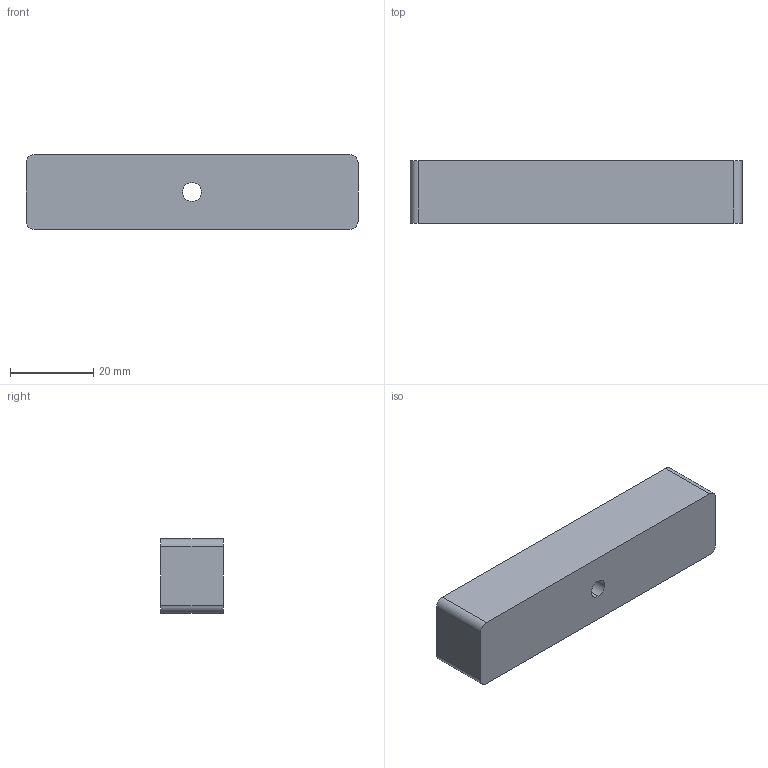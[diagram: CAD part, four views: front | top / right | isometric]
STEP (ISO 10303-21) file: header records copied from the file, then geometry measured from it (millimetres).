
FILE_DESCRIPTION (( 'STEP AP214' ), '1' );
FILE_NAME ('DMi8 stage spacer 15mm front 1.0.STEP', '2017-07-17T21:06:56', ( '' ), ( '' ), 'SwSTEP 2.0', 'SolidWorks 2016', '' );
FILE_SCHEMA (( 'AUTOMOTIVE_DESIGN' ));
Length unit declared in the file: millimetre
Products named in the file (1): DMi8 stage spacer 15mm front 1.0
Bounding box: 80 x 15 x 18 mm (x, y, z)
Volume: 21309.9 mm3; surface area: 5941.9 mm2
Topology: 1 solids, 1 shells, 12 faces, 30 edges, 20 vertices
Faces by surface type: cylinder 6, plane 6
Entity records: 404 total; most frequent: DIRECTION 68, CARTESIAN_POINT 63, ORIENTED_EDGE 60, EDGE_CURVE 30, AXIS2_PLACEMENT_3D 25, VERTEX_POINT 20, VECTOR 18, LINE 18
